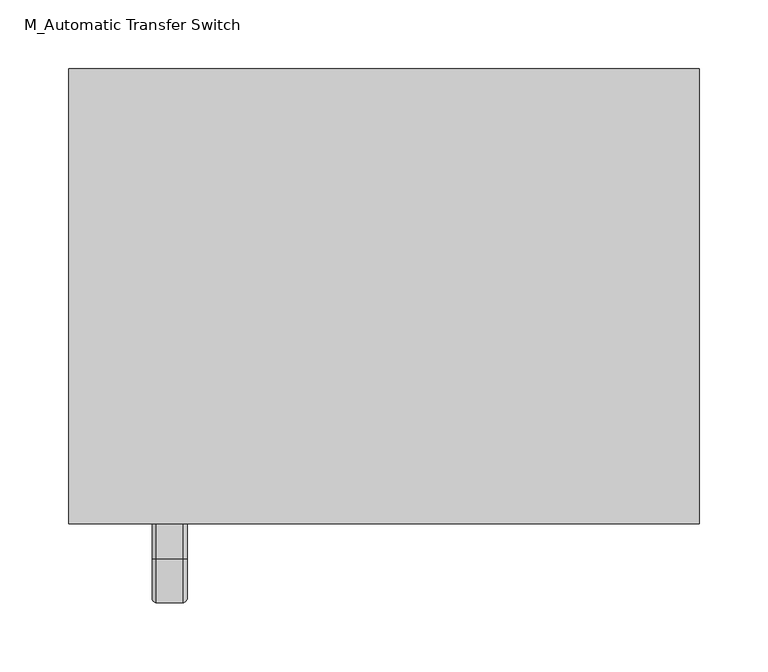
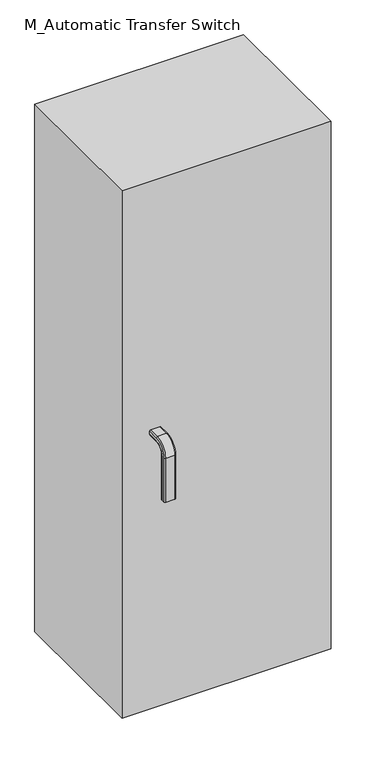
"""IFC4 building model written with IfcOpenShell, lengths in millimetres: proxy geometry, M_Automatic Transfer Switch : 100-200 A."""

from ifc_helpers import new_model, si_unit, point, frame, origin, origin_with_axes, place, context, project, spatial, polyline, circle_curve, ellipse_curve, trimmed, outline, extrude, source, transform, mapped, element, save
from ifc_brep_helpers import plane_surface, cylinder_surface, revolved_surface, advanced_brep


def m_automatic_transfer_switch_b6ba1148(model_context):
    return source(origin(), model_context, "Body", "SolidModel", [
        extrude(outline(polyline([(228.5, 0.0), (228.5, -329.85), (-228.5, -329.85), (-228.5, 0.0), (228.5, 0.0)])), origin_with_axes(), (0.0, 0.0, 1.0), 1219.0),
        advanced_brep(
        [(-165.025, -329.85, 644.675), (-145.9506434, -329.85, 644.675), (-142.7756434, -329.85, 641.5), (-142.7756434, -329.85, 635.4333203), (-145.9506434, -329.85, 631.975), (-165.025, -329.85, 631.975), (-168.2, -329.85, 635.15), (-168.2, -329.85, 641.5), (-165.025, -355.25, 644.675), (-145.9506434, -355.25, 644.675), (-142.7756434, -355.25, 641.5), (-142.7756434, -383.825, 612.925), (-142.7756434, -383.825, 511.325), (-142.7756434, -377.7583203, 511.325), (-142.7756434, -377.7583203, 612.925), (-142.7756434, -355.25, 635.4333203), (-145.9506434, -355.25, 631.975), (-165.025, -355.25, 631.975), (-168.2, -355.25, 635.15), (-168.2, -377.475, 612.925), (-168.2, -377.475, 511.325), (-168.2, -383.825, 511.325), (-168.2, -383.825, 612.925), (-168.2, -355.25, 641.5), (-145.9506434, -387.0, 612.925), (-165.025, -387.0, 612.925), (-145.9506434, -374.3, 612.925), (-165.025, -374.3, 612.925), (-165.025, -387.0, 511.325), (-165.025, -374.3, 511.325), (-145.9506434, -374.3, 511.325), (-145.9506434, -387.0, 511.325)],
        [
            (0, 1),
            (1, 2, circle_curve(frame((-145.9506434, -329.85, 641.5), z_axis=(0.0, 1.0, 0.0), x_axis=(0.0, 0.0, -1.0)), 3.175)),
            (2, 3),
            (3, 4, circle_curve(frame((-145.9506434, -329.85, 635.1616054), z_axis=(0.0, 1.0, 0.0), x_axis=(0.0, 0.0, -1.0)), 3.1866054)),
            (4, 5),
            (5, 6, circle_curve(frame((-165.025, -329.85, 635.15), z_axis=(0.0, 1.0, 0.0), x_axis=(0.0, 0.0, -1.0)), 3.175)),
            (6, 7),
            (7, 0, circle_curve(frame((-165.025, -329.85, 641.5), z_axis=(0.0, 1.0, 0.0), x_axis=(0.0, 0.0, -1.0)), 3.175)),
            (0, 8),
            (8, 9),
            (9, 1),
            (9, 10, circle_curve(frame((-145.9506434, -355.25, 641.5), z_axis=(0.0, 1.0, 0.0), x_axis=(0.0, 0.0, -1.0)), 3.175)),
            (10, 2),
            (10, 11, circle_curve(frame((-142.7756434, -355.25, 612.925), z_axis=(1.0, 0.0, 0.0), x_axis=(0.0, 0.0, 1.0)), 28.575)),
            (11, 12),
            (12, 13),
            (13, 14),
            (14, 15, circle_curve(frame((-142.7756434, -355.25, 612.925), z_axis=(-1.0, 0.0, 0.0), x_axis=(0.0, 0.0, 1.0)), 22.5083203)),
            (15, 3),
            (15, 16, circle_curve(frame((-145.9506434, -355.25, 635.1616054), z_axis=(0.0, 1.0, 0.0), x_axis=(0.0, 0.0, -1.0)), 3.1866054)),
            (16, 4),
            (16, 17),
            (17, 5),
            (17, 18, circle_curve(frame((-165.025, -355.25, 635.15), z_axis=(0.0, 1.0, 0.0), x_axis=(0.0, 0.0, -1.0)), 3.175)),
            (18, 6),
            (18, 19, circle_curve(frame((-168.2, -355.25, 612.925), z_axis=(1.0, 0.0, 0.0), x_axis=(0.0, 0.0, 1.0)), 22.225)),
            (19, 20),
            (20, 21),
            (21, 22),
            (22, 23, circle_curve(frame((-168.2, -355.25, 612.925), z_axis=(-1.0, 0.0, 0.0), x_axis=(0.0, 0.0, 1.0)), 28.575)),
            (23, 7),
            (23, 8, circle_curve(frame((-165.025, -355.25, 641.5), z_axis=(0.0, 1.0, 0.0), x_axis=(0.0, 0.0, -1.0)), 3.175)),
            (24, 9, circle_curve(frame((-145.9506434, -355.25, 612.925), z_axis=(-1.0, 0.0, 0.0), x_axis=(0.0, 0.0, 1.0)), 31.75)),
            (8, 25, circle_curve(frame((-165.025, -355.25, 612.925), z_axis=(1.0, 0.0, 0.0), x_axis=(0.0, 0.0, 1.0)), 31.75)),
            (25, 24),
            (24, 11, circle_curve(frame((-145.9506434, -383.825, 612.925), z_axis=(0.0, 0.0, 1.0), x_axis=(0.0, 1.0, 0.0)), 3.175)),
            (26, 16, circle_curve(frame((-145.9506434, -355.25, 612.925), z_axis=(-1.0, 0.0, 0.0), x_axis=(0.0, 0.0, 1.0)), 19.05)),
            (14, 26, circle_curve(frame((-145.9506434, -377.4866054, 612.925), z_axis=(0.0, 0.0, 1.0), x_axis=(0.0, 1.0, 0.0)), 3.1866054)),
            (27, 17, circle_curve(frame((-165.025, -355.25, 612.925), z_axis=(-1.0, 0.0, 0.0), x_axis=(0.0, 0.0, 1.0)), 19.05)),
            (26, 27),
            (27, 19, circle_curve(frame((-165.025, -377.475, 612.925), z_axis=(0.0, 0.0, 1.0), x_axis=(0.0, 1.0, 0.0)), 3.175)),
            (22, 25, circle_curve(frame((-165.025, -383.825, 612.925), z_axis=(0.0, 0.0, 1.0), x_axis=(0.0, 1.0, 0.0)), 3.175)),
            (28, 21, circle_curve(frame((-165.025, -383.825, 511.325), z_axis=(0.0, 0.0, -1.0), x_axis=(0.0, 1.0, 0.0)), 3.175)),
            (20, 29, circle_curve(frame((-165.025, -377.475, 511.325), z_axis=(0.0, 0.0, -1.0), x_axis=(0.0, 1.0, 0.0)), 3.175)),
            (29, 30),
            (30, 13, circle_curve(frame((-145.9506434, -377.4866054, 511.325), z_axis=(0.0, 0.0, -1.0), x_axis=(0.0, 1.0, 0.0)), 3.1866054)),
            (12, 31, circle_curve(frame((-145.9506434, -383.825, 511.325), z_axis=(0.0, 0.0, -1.0), x_axis=(0.0, 1.0, 0.0)), 3.175)),
            (31, 28),
            (25, 28),
            (31, 24),
            (30, 26),
            (29, 27),
        ],
        [
            plane_surface(frame((-155.5, -329.85, 638.325), z_axis=(0.0, 1.0, 0.0), x_axis=(1.0, 0.0, 0.0))),
            plane_surface(frame((-165.025, -329.85, 644.675), z_axis=(0.0, 0.0, 1.0), x_axis=(0.0, -1.0, 0.0))),
            cylinder_surface(frame((-145.9506434, -329.85, 641.5), z_axis=(0.0, 1.0, 0.0), x_axis=(0.0, 0.0, -1.0)), 3.175),
            plane_surface(frame((-142.7756434, -329.85, 641.5), z_axis=(1.0, 0.0, 0.0), x_axis=(0.0, -1.0, 0.0))),
            cylinder_surface(frame((-145.9506434, -329.85, 635.1616054), z_axis=(0.0, 1.0, 0.0), x_axis=(0.0, 0.0, -1.0)), 3.1866054),
            plane_surface(frame((-145.9506434, -329.85, 631.975), z_axis=(0.0, 0.0, -1.0), x_axis=(0.0, -1.0, 0.0))),
            cylinder_surface(frame((-165.025, -329.85, 635.15), z_axis=(0.0, 1.0, 0.0), x_axis=(0.0, 0.0, -1.0)), 3.175),
            plane_surface(frame((-168.2, -329.85, 635.15), z_axis=(-1.0, 0.0, 0.0), x_axis=(0.0, -1.0, 0.0))),
            cylinder_surface(frame((-165.025, -329.85, 641.5), z_axis=(0.0, 1.0, 0.0), x_axis=(0.0, 0.0, -1.0)), 3.175),
            cylinder_surface(frame((-155.5, -355.25, 612.925), z_axis=(1.0, 0.0, 0.0), x_axis=(0.0, 0.0, 1.0)), 31.75),
            revolved_surface(trimmed(ellipse_curve(frame((-145.9506434, -355.25, 641.5), z_axis=(0.0, 1.0, 0.0), x_axis=(0.0, 0.0, -1.0)), 3.175, 3.175), [point((-145.9506434, -355.25, 644.675))], [point((-142.7756434, -355.25, 641.5))], True, "CARTESIAN"), (-155.5, -355.25, 612.925), (1.0, 0.0, 0.0)),
            revolved_surface(trimmed(ellipse_curve(frame((-145.9506434, -355.25, 635.1616054), z_axis=(0.0, 1.0, 0.0), x_axis=(0.0, 0.0, -1.0)), 3.1866054, 3.1866054), [point((-142.7756434, -355.25, 635.4333203))], [point((-145.9506434, -355.25, 631.975))], True, "CARTESIAN"), (-155.5, -355.25, 612.925), (1.0, 0.0, 0.0)),
            revolved_surface(polyline([(-145.9506434, -355.25, 631.9749999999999), (-165.025, -355.25, 631.9749999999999)]), (-155.5, -355.25, 612.925), (1.0, 0.0, 0.0)),
            revolved_surface(trimmed(ellipse_curve(frame((-165.025, -355.25, 635.15), z_axis=(0.0, 1.0, 0.0), x_axis=(0.0, 0.0, -1.0)), 3.175, 3.175), [point((-165.025, -355.25, 631.975))], [point((-168.2, -355.25, 635.15))], True, "CARTESIAN"), (-155.5, -355.25, 612.925), (1.0, 0.0, 0.0)),
            revolved_surface(trimmed(ellipse_curve(frame((-165.025, -355.25, 641.5), z_axis=(0.0, 1.0, 0.0), x_axis=(0.0, 0.0, -1.0)), 3.175, 3.175), [point((-168.2, -355.25, 641.5))], [point((-165.025, -355.25, 644.675))], True, "CARTESIAN"), (-155.5, -355.25, 612.925), (1.0, 0.0, 0.0)),
            plane_surface(frame((-155.5, -380.65, 511.325), z_axis=(0.0, 0.0, -1.0), x_axis=(1.0, 0.0, 0.0))),
            plane_surface(frame((-165.025, -387.0, 612.925), z_axis=(0.0, -1.0, 0.0), x_axis=(0.0, 0.0, -1.0))),
            cylinder_surface(frame((-145.9506434, -383.825, 612.925), z_axis=(0.0, 0.0, 1.0), x_axis=(0.0, 1.0, 0.0)), 3.175),
            cylinder_surface(frame((-145.9506434, -377.4866054, 612.925), z_axis=(0.0, 0.0, 1.0), x_axis=(0.0, 1.0, 0.0)), 3.1866054),
            plane_surface(frame((-145.9506434, -374.3, 612.925), z_axis=(0.0, 1.0, 0.0), x_axis=(0.0, 0.0, -1.0))),
            cylinder_surface(frame((-165.025, -377.475, 612.925), z_axis=(0.0, 0.0, 1.0), x_axis=(0.0, 1.0, 0.0)), 3.175),
            cylinder_surface(frame((-165.025, -383.825, 612.925), z_axis=(0.0, 0.0, 1.0), x_axis=(0.0, 1.0, 0.0)), 3.175),
        ],
        [
            (0, [[1, 2, 3, 4, 5, 6, 7, 8]]),
            (1, [[-1, 9, 10, 11]]),
            (2, [[-2, -11, 12, 13]]),
            (3, [[-3, -13, 14, 15, 16, 17, 18, 19]]),
            (4, [[-4, -19, 20, 21]]),
            (5, [[-5, -21, 22, 23]]),
            (6, [[-6, -23, 24, 25]]),
            (7, [[-7, -25, 26, 27, 28, 29, 30, 31]]),
            (8, [[-8, -31, 32, -9]]),
            (9, [[33, -10, 34, 35]]),
            (10, [[-14, -12, -33, 36]]),
            (11, [[37, -20, -18, 38]]),
            (12, [[39, -22, -37, 40]]),
            (13, [[-26, -24, -39, 41]]),
            (14, [[-34, -32, -30, 42]]),
            (15, [[43, -28, 44, 45, 46, -16, 47, 48]]),
            (16, [[-35, 49, -48, 50]]),
            (17, [[-36, -50, -47, -15]]),
            (18, [[-38, -17, -46, 51]]),
            (19, [[-40, -51, -45, 52]]),
            (20, [[-41, -52, -44, -27]]),
            (21, [[-42, -29, -43, -49]]),
        ],
    ),
    ])


if __name__ == "__main__":
    model = new_model("IFC4")
    model_context = context("Model", 3, world=origin())
    ifc_project = project(units=[si_unit("LENGTHUNIT", "METRE", prefix="MILLI")], contexts=[model_context])
    site = spatial("IfcSite", under=ifc_project)
    building = spatial("IfcBuilding", under=site)
    placement = place(None, origin())
    m_automatic_transfer_switch_shape = m_automatic_transfer_switch_b6ba1148(model_context)
    element("IfcBuildingElementProxy", 1, Name="M_Automatic Transfer Switch : 100-200 A", ObjectType="M_Automatic Transfer Switch : 100-200 A", at=placement, inside=building, context=model_context, shape_type="MappedRepresentation", body=[
        mapped(m_automatic_transfer_switch_shape, transform((0.0, 0.0, 0.0), x_axis=(1.0, 0.0, 0.0), y_axis=(0.0, 1.0, 0.0), z_axis=(0.0, 0.0, 1.0))),
    ])
    save(model, "model.ifc")
